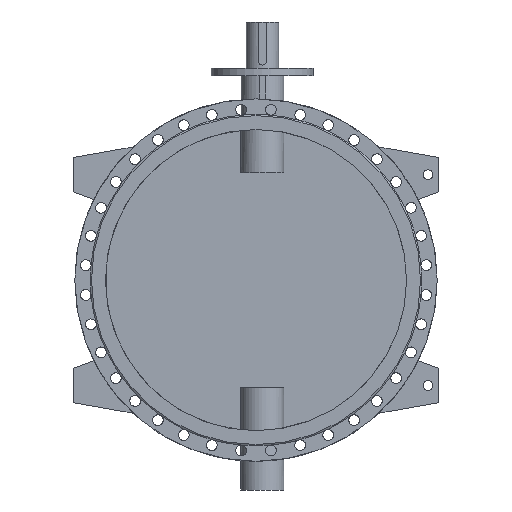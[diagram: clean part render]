
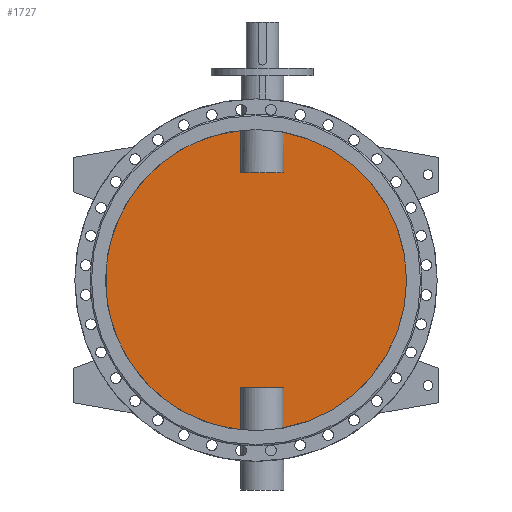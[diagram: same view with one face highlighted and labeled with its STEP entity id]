
A CAD part, front view. The second image highlights one B-rep face of the part: STEP entity #1727.
In plain terms, the highlighted planar face has unit normal (0, -1, 0).
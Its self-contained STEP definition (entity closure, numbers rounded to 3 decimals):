
#1727=ADVANCED_FACE('',(#3695),#3697,.F.);
#3695=FACE_BOUND('',#3696,.T.);
#3696=EDGE_LOOP('',(#4939,#4940,#4941,#4942,#4943,#4944,#4945,#4946));
#3697=PLANE('',#3698);
#3698=AXIS2_PLACEMENT_3D('',#3699,#3700,#3701);
#3699=CARTESIAN_POINT('',(0.,-5.,0.));
#3700=DIRECTION('',(0.,1.,0.));
#3701=DIRECTION('',(1.,0.,0.));
#4939=ORIENTED_EDGE('',*,*,#5567,.T.);
#4940=ORIENTED_EDGE('',*,*,#5581,.T.);
#4941=ORIENTED_EDGE('',*,*,#5582,.T.);
#4942=ORIENTED_EDGE('',*,*,#5583,.T.);
#4943=ORIENTED_EDGE('',*,*,#5569,.T.);
#4944=ORIENTED_EDGE('',*,*,#5584,.T.);
#4945=ORIENTED_EDGE('',*,*,#5585,.T.);
#4946=ORIENTED_EDGE('',*,*,#5586,.T.);
#5567=EDGE_CURVE('',#6585,#6586,#6587,.F.);
#5569=EDGE_CURVE('',#6590,#6588,#6591,.F.);
#5581=EDGE_CURVE('',#6586,#6613,#6614,.T.);
#5582=EDGE_CURVE('',#6613,#6615,#6616,.F.);
#5583=EDGE_CURVE('',#6615,#6590,#6617,.F.);
#5584=EDGE_CURVE('',#6588,#6618,#6619,.F.);
#5585=EDGE_CURVE('',#6618,#6620,#6621,.F.);
#5586=EDGE_CURVE('',#6620,#6585,#6622,.T.);
#6585=VERTEX_POINT('',#9765);
#6586=VERTEX_POINT('',#9766);
#6587=CIRCLE('',#9767,700.);
#6588=VERTEX_POINT('',#9771);
#6590=VERTEX_POINT('',#9833);
#6591=CIRCLE('',#9834,700.);
#6613=VERTEX_POINT('',#10247);
#6614=LINE('',#10248,#10249);
#6615=VERTEX_POINT('',#10251);
#6616=LINE('',#10252,#10253);
#6617=LINE('',#10255,#10256);
#6618=VERTEX_POINT('',#10258);
#6619=LINE('',#10259,#10260);
#6620=VERTEX_POINT('',#10262);
#6621=LINE('',#10263,#10264);
#6622=LINE('',#10266,#10267);
#9765=CARTESIAN_POINT('',(129.875,-5.,-687.846));
#9766=CARTESIAN_POINT('',(129.875,-5.,687.846));
#9767=AXIS2_PLACEMENT_3D('',#9768,#9769,#9770);
#9768=CARTESIAN_POINT('',(0.,-5.,0.));
#9769=DIRECTION('',(0.,1.,0.));
#9770=DIRECTION('',(0.186,0.,0.983));
#9771=CARTESIAN_POINT('',(-69.875,-5.,-696.504));
#9833=CARTESIAN_POINT('',(-69.875,-5.,696.504));
#9834=AXIS2_PLACEMENT_3D('',#9835,#9836,#9837);
#9835=CARTESIAN_POINT('',(0.,-5.,0.));
#9836=DIRECTION('',(0.,1.,0.));
#9837=DIRECTION('',(-0.1,0.,-0.995));
#10247=CARTESIAN_POINT('',(129.875,-5.,500.));
#10248=CARTESIAN_POINT('',(129.875,-5.,687.846));
#10249=VECTOR('',#10250,1.);
#10250=DIRECTION('',(0.,0.,-1.));
#10251=CARTESIAN_POINT('',(-69.875,-5.,500.));
#10252=CARTESIAN_POINT('',(-69.875,-5.,500.));
#10253=VECTOR('',#10254,1.);
#10254=DIRECTION('',(1.,0.,0.));
#10255=CARTESIAN_POINT('',(-69.875,-5.,696.504));
#10256=VECTOR('',#10257,1.);
#10257=DIRECTION('',(0.,0.,-1.));
#10258=CARTESIAN_POINT('',(-69.875,-5.,-500.));
#10259=CARTESIAN_POINT('',(-69.875,-5.,-500.));
#10260=VECTOR('',#10261,1.);
#10261=DIRECTION('',(0.,0.,-1.));
#10262=CARTESIAN_POINT('',(129.875,-5.,-500.));
#10263=CARTESIAN_POINT('',(129.875,-5.,-500.));
#10264=VECTOR('',#10265,1.);
#10265=DIRECTION('',(-1.,0.,0.));
#10266=CARTESIAN_POINT('',(129.875,-5.,-500.));
#10267=VECTOR('',#10268,1.);
#10268=DIRECTION('',(0.,0.,-1.));
